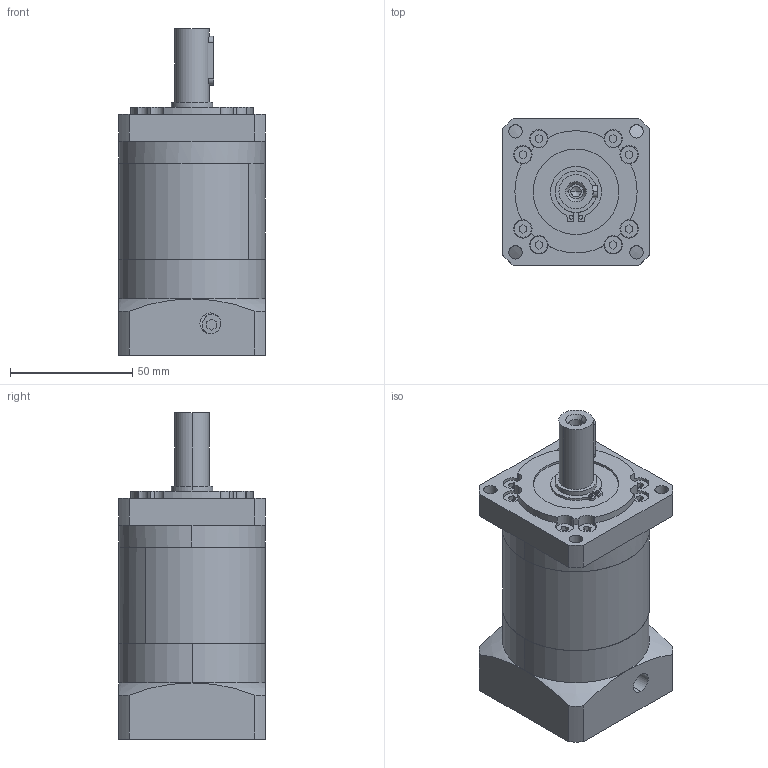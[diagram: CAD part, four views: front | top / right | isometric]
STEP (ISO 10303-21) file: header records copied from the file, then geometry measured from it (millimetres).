
FILE_DESCRIPTION (( 'STEP AP203' ), '1' );
FILE_NAME ('PLF060-L2838塋拊佴杻ANDANTEX.STEP', '2021-04-12T14:06:37', ( 'Windows User' ), ( 'P R C' ), 'SwSTEP 2.0', 'SolidWorks 2016', '' );
FILE_SCHEMA (( 'CONFIG_CONTROL_DESIGN' ));
Length unit declared in the file: millimetre
Products named in the file (8): PLF60 內齿圈_二级内齿圈_1; PLF60 奻屳唳_D1-70 D2-5.5 D3-14 D4-17 D5-50 L1-30 L2-35 L3-3 A1-60 S1-3 S2-20 S3-5 S4-18 B-5 H-16 C-M5 梓袧_2; PLF60 狟屳唳-8_D6-60 D7-14 梓袧; PLF60-連接板-38.1-M4-66.6-输入8_D8-50 D9-70 D10-M10 L4-22 L6-32(22+10) L7-4 A2-60 R-39.5 标准; 邧埴瑩 5x5x20_2; 粣創-6004 20x42x12_2; PLF060-L2838塋拊佴杻ANDANTEX; 囀鞠褒蹟佪 M5℅16
Assembly tree (7 placements, depth 2):
  PLF060-L2838塋拊佴杻ANDANTEX
    囀鞠褒蹟佪 M5℅16
    PLF60 內齿圈_二级内齿圈_1
    PLF60 奻屳唳_D1-70 D2-5.5 D3-14 D4-17 D5-50 L1-30 L2-35 L3-3 A1-60 S1-3 S2-20 S3-5 S4-18 B-5 H-16 C-M5 梓袧_2
    PLF60 狟屳唳-8_D6-60 D7-14 梓袧
    PLF60-連接板-38.1-M4-66.6-输入8_D8-50 D9-70 D10-M10 L4-22 L6-32(22+10) L7-4 A2-60 R-39.5 标准
    邧埴瑩 5x5x20_2
    粣創-6004 20x42x12_2
Bounding box: 60 x 60 x 133.5 mm (x, y, z)
Volume: 277070.1 mm3; surface area: 75705.2 mm2
Topology: 7 solids, 7 shells, 1003 faces, 2716 edges, 1795 vertices
Faces by surface type: plane 517, cylinder 199, bspline 154, sphere 72, torus 47, cone 14
Entity records: 41773 total; most frequent: CARTESIAN_POINT 16617, ORIENTED_EDGE 5412, DIRECTION 4503, EDGE_CURVE 2706, VERTEX_POINT 1795, AXIS2_PLACEMENT_3D 1565, LINE 1373, VECTOR 1373
